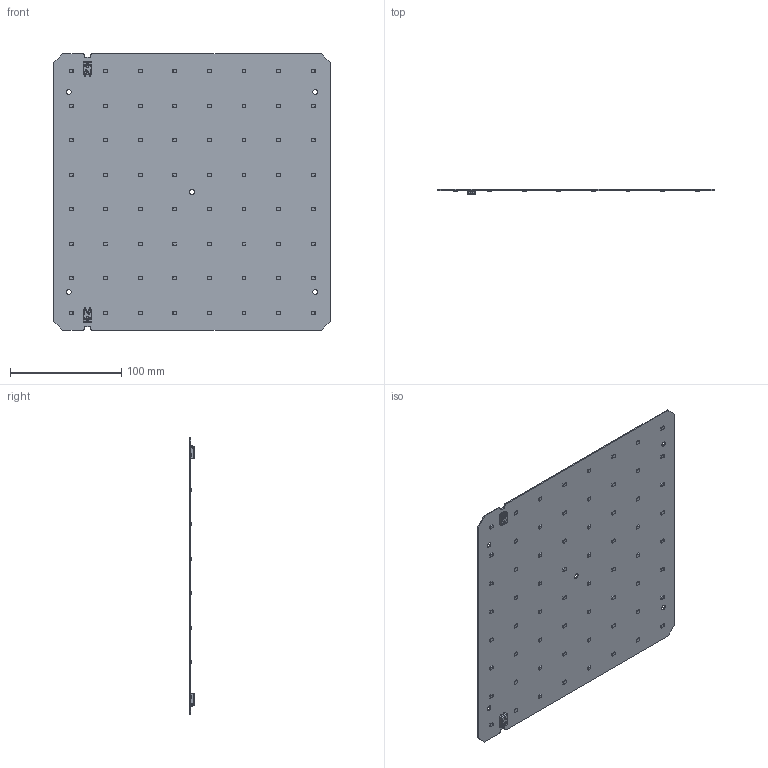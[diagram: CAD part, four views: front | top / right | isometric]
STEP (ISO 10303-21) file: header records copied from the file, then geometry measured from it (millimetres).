
FILE_DESCRIPTION(/* description */ ('Unknown'),/* implementation_level */ '2;1');
FILE_NAME(/* name */ 'RecLED 250x250mm 1250lm 24V sh-000 2021-06-09',/* time_stamp */ '2021-06-09T12:11:27+02:00',/* author */ ('Unknown'),/* organization */ ('Unknown'),/* preprocessor_version */ 'ST-DEVELOPER v16.7',/* originating_system */ 'Solid Edge',/* authorisation */ 'Unknown');
FILE_SCHEMA (('AUTOMOTIVE_DESIGN {1 0 10303 214 3 1 1}'));
Products named in the file (1): RecLED 250x250mm 1250lm 24V sh-000 2021-06-09
Bounding box: 249 x 4.45 x 249 mm (x, y, z)
Volume: 62784.8 mm3; surface area: 126024.3 mm2
Topology: 1 solids, 1 shells, 1861 faces, 4867 edges, 3134 vertices
Faces by surface type: plane 1360, cylinder 233, bspline 174, cone 52, torus 22, sphere 20
Full cylindrical faces by diameter (mm): 4.5 x5
Entity records: 73761 total; most frequent: CARTESIAN_POINT 16750, ORIENTED_EDGE 9648, DIRECTION 7984, EDGE_CURVE 4824, LINE 3736, VECTOR 3736, VERTEX_POINT 3124, AXIS2_PLACEMENT_3D 2124
